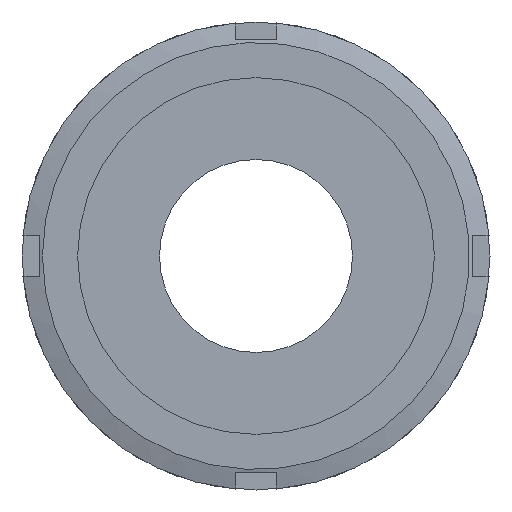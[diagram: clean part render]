
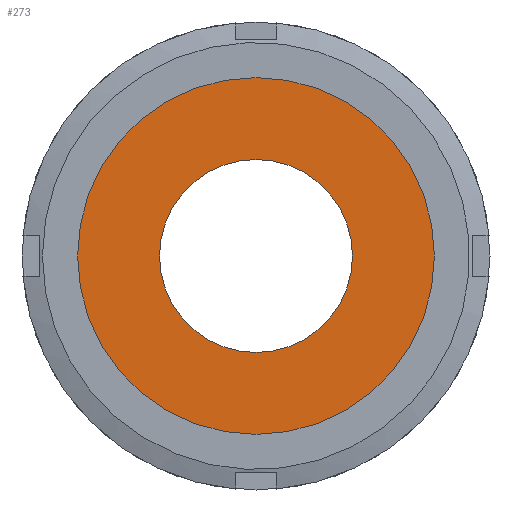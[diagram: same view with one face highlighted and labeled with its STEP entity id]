
A CAD part, left-side view. The second image highlights one B-rep face of the part: STEP entity #273.
In plain terms, the highlighted planar face has unit normal (-1, 0, 0) as drawn and (0, -1, 0) by its records, which use the part's own axes.
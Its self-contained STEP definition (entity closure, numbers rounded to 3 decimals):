
#273 = ADVANCED_FACE( '', ( #402, #403 ), #404, .T. );
#402 = FACE_OUTER_BOUND( '', #610, .T. );
#403 = FACE_BOUND( '', #611, .T. );
#404 = PLANE( '', #612 );
#610 = EDGE_LOOP( '', ( #961 ) );
#611 = EDGE_LOOP( '', ( #962 ) );
#612 = AXIS2_PLACEMENT_3D( '', #963, #964, #965 );
#961 = ORIENTED_EDGE( '', *, *, #1422, .T. );
#962 = ORIENTED_EDGE( '', *, *, #1423, .F. );
#963 = CARTESIAN_POINT( '', ( 16.5, 0., 0. ) );
#964 = DIRECTION( '', ( 0., -1., 0. ) );
#965 = DIRECTION( '', ( 0., 0., -1. ) );
#1422 = EDGE_CURVE( '', #1649, #1649, #1650, .T. );
#1423 = EDGE_CURVE( '', #1651, #1651, #1652, .T. );
#1649 = VERTEX_POINT( '', #2105 );
#1650 = CIRCLE( '', #2106, 30.5 );
#1651 = VERTEX_POINT( '', #2107 );
#1652 = CIRCLE( '', #2108, 16.5 );
#2105 = CARTESIAN_POINT( '', ( 0., 0., -30.5 ) );
#2106 = AXIS2_PLACEMENT_3D( '', #2580, #2581, #2582 );
#2107 = CARTESIAN_POINT( '', ( 0., 0., -16.5 ) );
#2108 = AXIS2_PLACEMENT_3D( '', #2583, #2584, #2585 );
#2580 = CARTESIAN_POINT( '', ( 0., 0., 0. ) );
#2581 = DIRECTION( '', ( 0., -1., 0. ) );
#2582 = DIRECTION( '', ( 0., 0., -1. ) );
#2583 = CARTESIAN_POINT( '', ( 0., 0., 0. ) );
#2584 = DIRECTION( '', ( 0., -1., 0. ) );
#2585 = DIRECTION( '', ( 0., 0., -1. ) );
